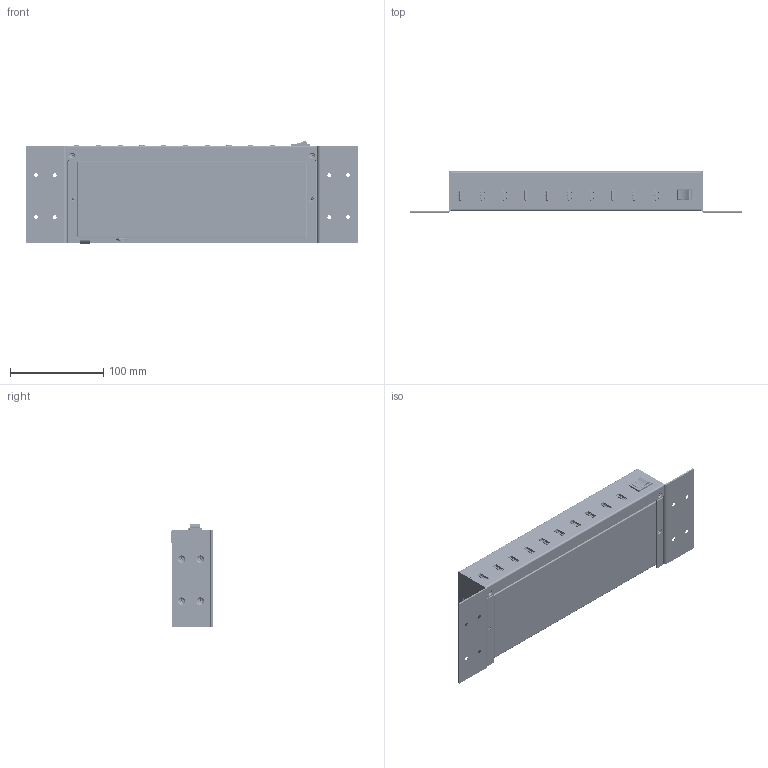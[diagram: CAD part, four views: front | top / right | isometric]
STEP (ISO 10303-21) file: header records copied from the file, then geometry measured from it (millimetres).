
FILE_DESCRIPTION(/* description */ (''),/* implementation_level */ '2;1');
FILE_NAME(/* name */ 'C:/Users/Leo/Desktop/USBG-10XU1/USBG-10XU1 Model3d LPV1.step',/* time_stamp */ '2021-05-03T11:37:19-04:00',/* author */ (''),/* organization */ (''),/* preprocessor_version */ 'ST-DEVELOPER v18.1',/* originating_system */ 'Autodesk Translation Framework v10.6.0.1341',/* authorisation */ '');
FILE_SCHEMA (('AUTOMOTIVE_DESIGN { 1 0 10303 214 3 1 1 }'));
Products named in the file (6): USBG-10XU1; Component1; U2CHGRHUB20 LP_Braket v1; U2CHGRHUB20 LP_Braket v1(Mirror); Bolt M3X0.5 100Angle 5mmHead.5 China 120ang METRIC 18-8 SS FLAT HEAD 
PHIL MACHINE SCREW v2; Component36
Assembly tree (16 placements, depth 2):
  USBG-10XU1
    Component1
    U2CHGRHUB20 LP_Braket v1
    U2CHGRHUB20 LP_Braket v1(Mirror)
    Bolt M3X0.5 100Angle 5mmHead.5 China 120ang METRIC 18-8 SS FLAT HEAD 
PHIL MACHINE SCREW v2  x12
    Component36
Bounding box: 356.3 x 44.04 x 110.62 mm (x, y, z)
Volume: 195858.8 mm3; surface area: 295906 mm2
Topology: 26 solids, 27 shells, 10331 faces, 30109 edges, 19646 vertices
Faces by surface type: plane 7002, cylinder 2015, bspline 1005, cone 238, sphere 60, torus 11
Full cylindrical faces by diameter (mm): 1 x2, 1.5 x2, 1.921 x10, 2 x10, 2.4 x1, 2.529 x12, 2.85 x8, 3 x12, 3.2 x8, 4 x4, 5 x8, 5.35 x2, 7 x1, 8 x2, 8.02 x1, 8.2 x1, 10 x1
Entity records: 327648 total; most frequent: CARTESIAN_POINT 68236, ORIENTED_EDGE 57452, DIRECTION 48708, EDGE_CURVE 28726, LINE 22594, VECTOR 22594, VERTEX_POINT 18756, AXIS2_PLACEMENT_3D 13057
